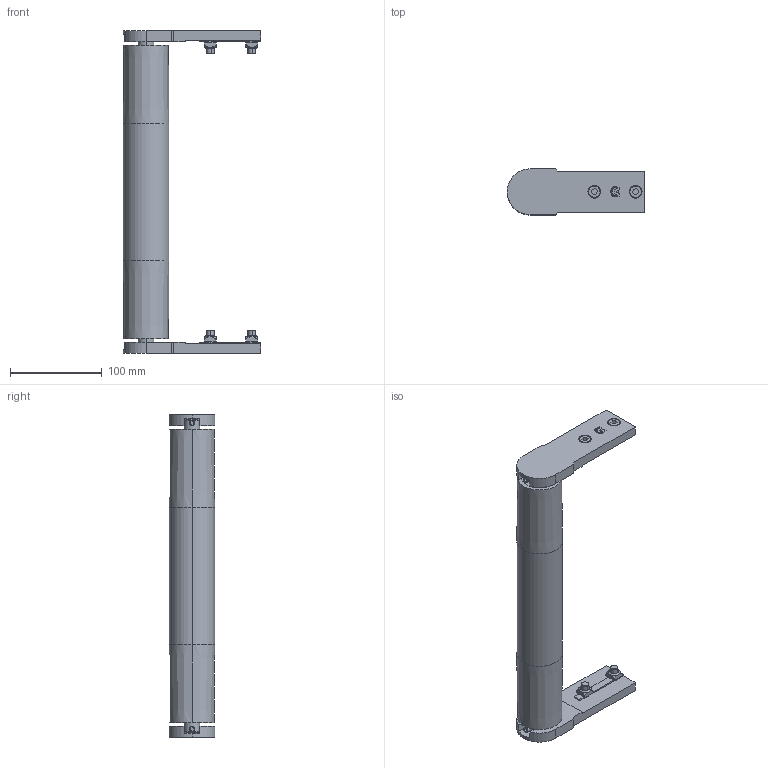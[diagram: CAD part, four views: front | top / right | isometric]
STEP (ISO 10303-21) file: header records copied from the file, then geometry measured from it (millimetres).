
FILE_DESCRIPTION (( 'STEP AP203' ), '1' );
FILE_NAME ('084.050.KIO.300.STEP', '2019-07-29T10:30:19', ( '' ), ( '' ), 'SwSTEP 2.0', 'SolidWorks 2018', '' );
FILE_SCHEMA (( 'CONFIG_CONTROL_DESIGN' ));
Length unit declared in the file: millimetre
Products named in the file (9): GRANI A PUNTA CONICA UNI 5927 INOX_M6x40 UNI 5927 INOX; CUSCINETTI A SFERE INOX_6203-2RS INOX; 084.302.000 DADI ALUSIC 13x13-1_084.302.003; 084.301.000 VITI ALUSIC_084.301.003; 084.807.014_084.807.002; Circlip DIN 471 - 17 x 1_Circlip DIN 471 - 17 x 1; 084.826.030; 084.826.029; 084.050.KIO.300
Assembly tree (18 placements, depth 2):
  084.050.KIO.300
    084.826.029
    084.826.030
    084.807.014_084.807.002  x2
    084.301.000 VITI ALUSIC_084.301.003  x4
    084.302.000 DADI ALUSIC 13x13-1_084.302.003  x4
    CUSCINETTI A SFERE INOX_6203-2RS INOX  x2
    Circlip DIN 471 - 17 x 1_Circlip DIN 471 - 17 x 1  x2
    GRANI A PUNTA CONICA UNI 5927 INOX_M6x40 UNI 5927 INOX  x2
Bounding box: 150 x 50 x 352 mm (x, y, z)
Volume: 530074.7 mm3; surface area: 162829.8 mm2
Topology: 18 solids, 18 shells, 426 faces, 1032 edges, 672 vertices
Faces by surface type: plane 180, cylinder 112, cone 48, bspline 46, torus 40
Entity records: 7624 total; most frequent: CARTESIAN_POINT 1668, DIRECTION 993, ORIENTED_EDGE 966, EDGE_CURVE 483, AXIS2_PLACEMENT_3D 379, VERTEX_POINT 314, LINE 235, VECTOR 235
